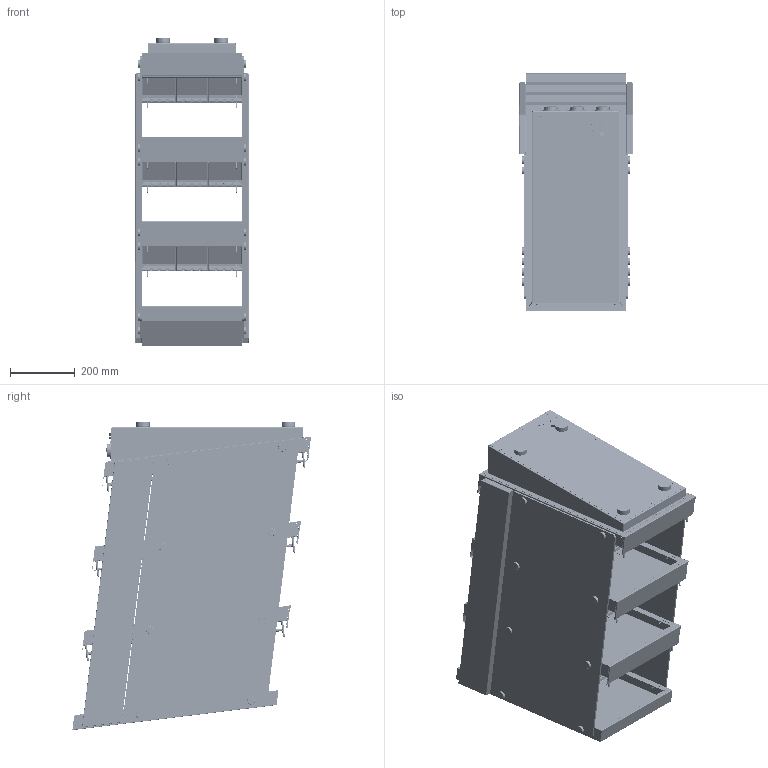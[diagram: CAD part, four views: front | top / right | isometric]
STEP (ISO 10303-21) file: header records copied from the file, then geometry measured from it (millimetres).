
FILE_DESCRIPTION (( 'STEP AP214' ), '1' );
FILE_NAME ('pres_CBIN353.STEP', '2024-12-17T15:05:01', ( '' ), ( '' ), 'SwSTEP 2.0', 'SolidWorks 2025', '' );
FILE_SCHEMA (( 'AUTOMOTIVE_DESIGN' ));
Length unit declared in the file: millimetre
Products named in the file (1): pres_CBIN353
Bounding box: 350.2 x 738.95 x 952.42 mm (x, y, z)
Volume: 6795520.6 mm3; surface area: 8049372.8 mm2
Topology: 152 solids, 152 shells, 9462 faces, 24007 edges, 15020 vertices
Faces by surface type: plane 4065, cylinder 3668, bspline 817, torus 500, sphere 324, cone 88
Entity records: 489776 total; most frequent: CARTESIAN_POINT 262438, ORIENTED_EDGE 47876, DIRECTION 44198, EDGE_CURVE 23938, AXIS2_PLACEMENT_3D 16552, VERTEX_POINT 15002, LINE 11094, VECTOR 11094
